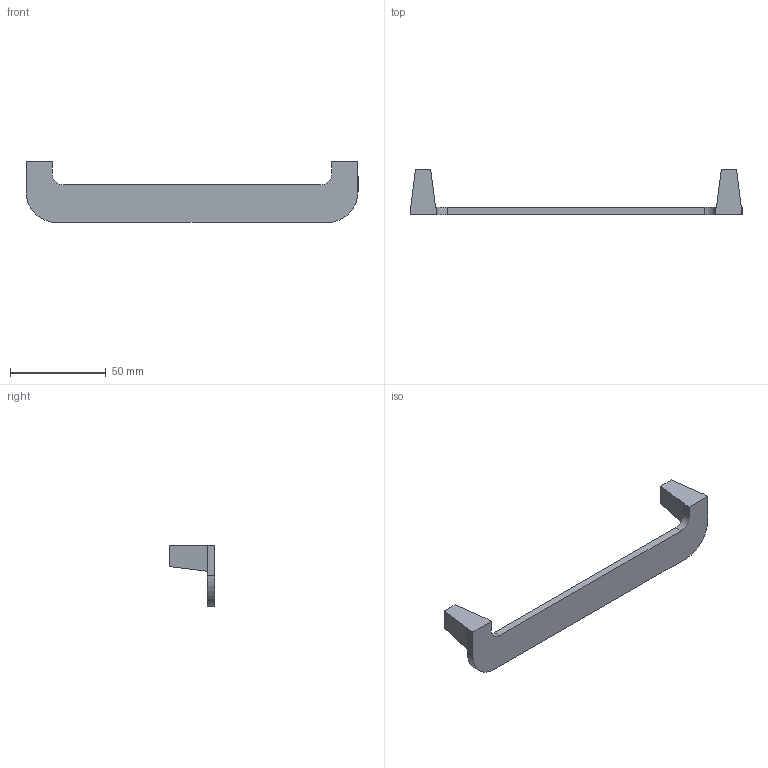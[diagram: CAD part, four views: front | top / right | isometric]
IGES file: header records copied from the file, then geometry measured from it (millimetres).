
Start section: Data from Parasolid IGES Translator 15.0.47, Copyright(c) 2006 Siemens P LM Software. All Rights Reserved.
Global section: file name: 9132300.igs; native system:  By UGS Corp.; preprocessor: XPlus GENERIC/IGES 3.0; author: Noname; organization: Noname; date: 20140122.145856; units: millimetre
Bounding box: 173.7 x 24 x 31.9 mm (x, y, z)
Surface area: 10895.2 mm2 (no closed solid volume)
Topology: 0 solids, 0 shells, 26 faces, 132 edges, 130 vertices
Faces by surface type: extrusion 20, revolution 6
